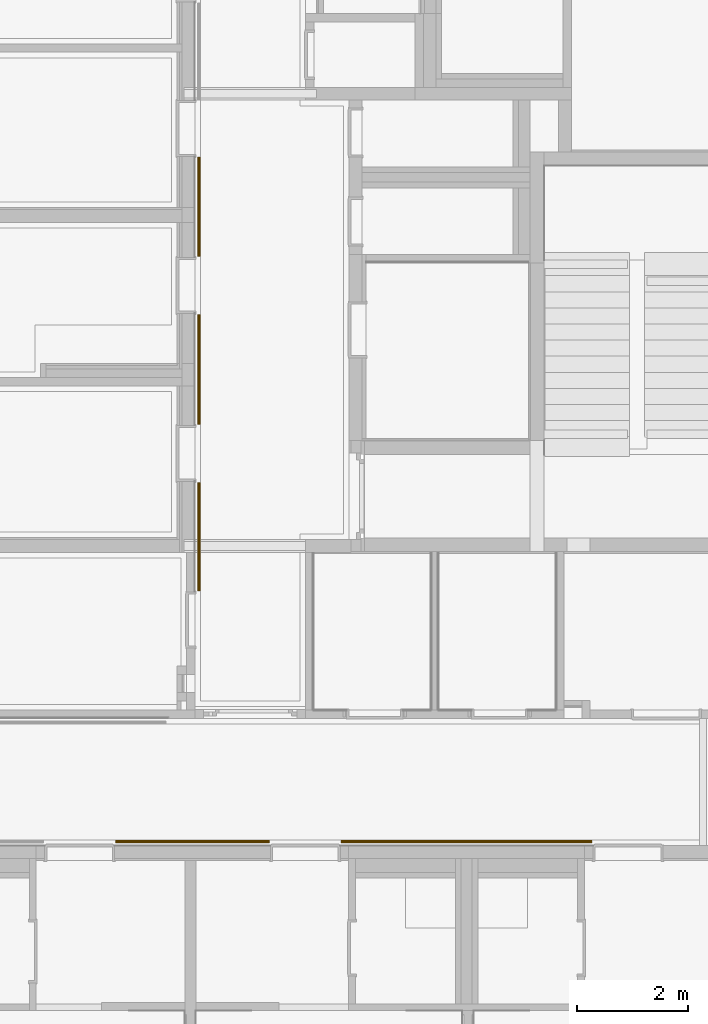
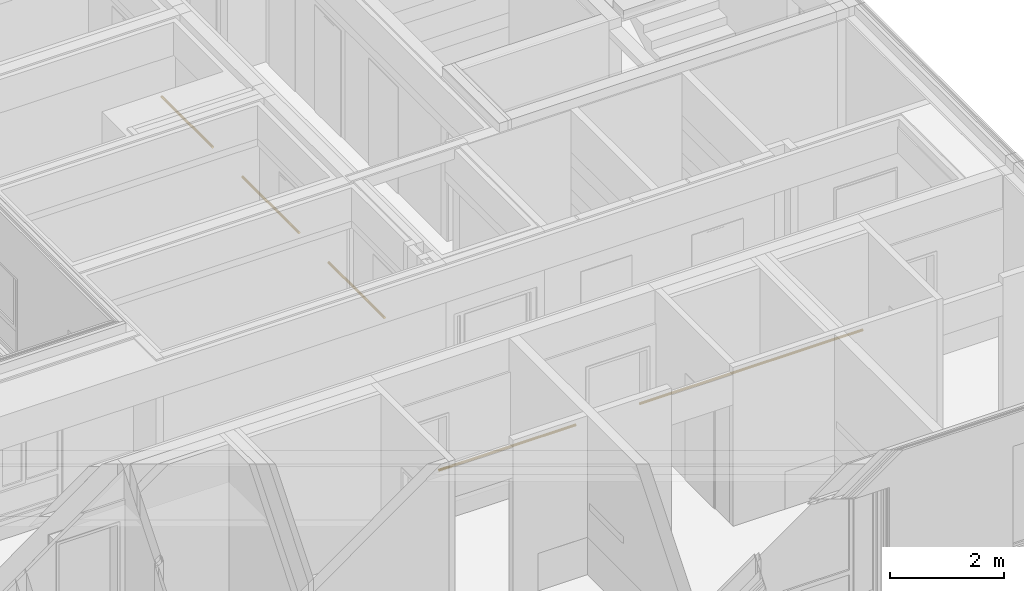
# One storey, part 202 of 207: 5 railings, 5 elements without a shape of their own.
"""IFC4 building model written with IfcOpenShell, lengths in metres."""

from ifc_helpers import new_model, entity, si_unit, converted_unit, derived_unit, frame, origin, place, context, subcontext, project, spatial, faceted_brep, material, element, aggregate, save


model = new_model("IFC4")

# Units and contexts
model_context = context("Model", 3, precision=1e-05, world=origin())
body_context = subcontext(model_context, "Body", "Model", "MODEL_VIEW")
ifc_project = project(units=[si_unit("LENGTHUNIT", "METRE"), si_unit("AREAUNIT", "SQUARE_METRE"), si_unit("VOLUMEUNIT", "CUBIC_METRE"), si_unit("MASSUNIT", "GRAM", prefix="KILO"), converted_unit("PLANEANGLEUNIT", "DEGREE", entity("IfcPlaneAngleMeasure", 0.0174532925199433), si_unit("PLANEANGLEUNIT", "RADIAN"), dimensions=[0, 0, 0, 0, 0, 0, 0]), derived_unit("THERMALTRANSMITTANCEUNIT", [(si_unit("POWERUNIT", "WATT"), 1), (si_unit("THERMODYNAMICTEMPERATUREUNIT", "KELVIN"), -1), (si_unit("LENGTHUNIT", "METRE"), -2)]), derived_unit("VOLUMETRICFLOWRATEUNIT", [(si_unit("LENGTHUNIT", "METRE"), 3), (converted_unit("TIMEUNIT", "hour", entity("IfcTimeMeasure", 3600.0), si_unit("TIMEUNIT", "SECOND"), dimensions=[0, 0, 1, 0, 0, 0, 0]), -1), (si_unit("LENGTHUNIT", "METRE"), -1)])], contexts=[model_context])

# Site, building, storey
site_placement = place(None, origin())
site = spatial("IfcSite", under=ifc_project, at=site_placement, Name="Psychiatrie Neubau Wunstorf", CompositionType="ELEMENT")
building_placement = place(site_placement, origin())
building = spatial("IfcBuilding", under=site, at=building_placement, Name="Neubau H2 Stationsgebäude", CompositionType="ELEMENT")
storey_placement = place(building_placement, frame((0.0, 0.0, -0.2)))
storey = spatial("IfcBuildingStorey", under=building, at=storey_placement, Name="H2 Ebene 0", CompositionType="ELEMENT", Elevation=-0.2)

# Assembly, railing
assembly_1_placement = place(storey_placement, frame((0.0, 0.0, 0.2)))
assembly_1 = element("IfcElementAssembly", 1, at=assembly_1_placement, inside=storey, Name="Geländer+Abstand", PredefinedType="NOTDEFINED")
ifc_material_1 = material(Name="Holz")
railing_1_placement = place(assembly_1_placement, frame((94.6500000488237, 5.3825, 0.8)))
railing_1 = element("IfcRailing", 2, at=railing_1_placement, material=ifc_material_1, context=body_context, shape_type="Brep", body=[
    faceted_brep([(2.77499995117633, 0.000103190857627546, 0.025), (2.77499995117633, 0.000481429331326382, 0.0293232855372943), (2.77499995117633, 0.00160465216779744, 0.0335152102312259), (2.77499995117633, 0.00343873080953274, 0.0374484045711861), (2.77499995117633, 0.00592793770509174, 0.0410033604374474), (2.77499995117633, 0.00899663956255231, 0.0440720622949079), (2.77499995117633, 0.0125515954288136, 0.0465612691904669), (2.77499995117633, 0.0164847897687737, 0.0483953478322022), (2.77499995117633, 0.0206767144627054, 0.0495185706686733), (2.77499995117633, 0.0249999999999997, 0.0498968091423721), (2.77499995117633, 0.029323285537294, 0.0495185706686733), (2.77499995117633, 0.0335152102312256, 0.0483953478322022), (2.77499995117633, 0.0374484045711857, 0.0465612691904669), (2.77499995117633, 0.041003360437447, 0.0440720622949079), (2.77499995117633, 0.0440720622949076, 0.0410033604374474), (2.77499995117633, 0.0465612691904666, 0.0374484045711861), (2.77499995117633, 0.0483953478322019, 0.0335152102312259), (2.77499995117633, 0.049518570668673, 0.0293232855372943), (2.77499995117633, 0.0498968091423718, 0.025), (2.77499995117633, 0.049518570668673, 0.0206767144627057), (2.77499995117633, 0.0483953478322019, 0.0164847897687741), (2.77499995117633, 0.0465612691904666, 0.0125515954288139), (2.77499995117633, 0.0440720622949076, 0.00899663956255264), (2.77499995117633, 0.041003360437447, 0.00592793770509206), (2.77499995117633, 0.0374484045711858, 0.00343873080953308), (2.77499995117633, 0.0335152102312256, 0.00160465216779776), (2.77499995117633, 0.029323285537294, 0.000481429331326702), (2.77499995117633, 0.0249999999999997, 0.000103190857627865), (2.77499995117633, 0.0206767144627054, 0.000481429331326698), (2.77499995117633, 0.0164847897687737, 0.00160465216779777), (2.77499995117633, 0.0125515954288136, 0.00343873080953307), (2.77499995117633, 0.00899663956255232, 0.00592793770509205), (2.77499995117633, 0.00592793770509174, 0.00899663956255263), (2.77499995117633, 0.00343873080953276, 0.0125515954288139), (2.77499995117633, 0.00160465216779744, 0.0164847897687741), (2.77499995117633, 0.000481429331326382, 0.0206767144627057), (0.0, 0.000103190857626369, 0.025), (0.0, 0.000481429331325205, 0.0206767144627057), (0.0, 0.00160465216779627, 0.0164847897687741), (0.0, 0.00343873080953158, 0.0125515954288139), (0.0, 0.00592793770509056, 0.00899663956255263), (0.0, 0.00899663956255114, 0.00592793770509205), (0.0, 0.0125515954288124, 0.00343873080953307), (0.0, 0.0164847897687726, 0.00160465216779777), (0.0, 0.0206767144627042, 0.000481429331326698), (0.0, 0.0249999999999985, 0.000103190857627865), (0.0, 0.0293232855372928, 0.000481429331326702), (0.0, 0.0335152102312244, 0.00160465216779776), (0.0, 0.0374484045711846, 0.00343873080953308), (0.0, 0.0410033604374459, 0.00592793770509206), (0.0, 0.0440720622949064, 0.00899663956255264), (0.0, 0.0465612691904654, 0.0125515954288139), (0.0, 0.0483953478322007, 0.0164847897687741), (0.0, 0.0495185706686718, 0.0206767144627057), (0.0, 0.0498968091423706, 0.025), (0.0, 0.0495185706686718, 0.0293232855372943), (0.0, 0.0483953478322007, 0.0335152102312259), (0.0, 0.0465612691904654, 0.0374484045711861), (0.0, 0.0440720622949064, 0.0410033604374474), (0.0, 0.0410033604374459, 0.0440720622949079), (0.0, 0.0374484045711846, 0.0465612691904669), (0.0, 0.0335152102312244, 0.0483953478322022), (0.0, 0.0293232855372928, 0.0495185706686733), (0.0, 0.0249999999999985, 0.0498968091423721), (0.0, 0.0206767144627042, 0.0495185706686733), (0.0, 0.0164847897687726, 0.0483953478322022), (0.0, 0.0125515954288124, 0.0465612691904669), (0.0, 0.00899663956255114, 0.0440720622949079), (0.0, 0.00592793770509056, 0.0410033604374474), (0.0, 0.00343873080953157, 0.0374484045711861), (0.0, 0.00160465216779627, 0.0335152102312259), (0.0, 0.000481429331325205, 0.0293232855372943)], [[[0, 1, 2, 3, 4, 5, 6, 7, 8, 9, 10, 11, 12, 13, 14, 15, 16, 17, 18, 19, 20, 21, 22, 23, 24, 25, 26, 27, 28, 29, 30, 31, 32, 33, 34, 35]], [[36, 37, 38, 39, 40, 41, 42, 43, 44, 45, 46, 47, 48, 49, 50, 51, 52, 53, 54, 55, 56, 57, 58, 59, 60, 61, 62, 63, 64, 65, 66, 67, 68, 69, 70, 71]], [[1, 0, 36, 71]], [[2, 1, 71, 70]], [[3, 2, 70, 69]], [[4, 3, 69, 68]], [[5, 4, 68, 67]], [[6, 5, 67, 66]], [[7, 6, 66, 65]], [[8, 7, 65, 64]], [[9, 8, 64, 63]], [[10, 9, 63, 62]], [[11, 10, 62, 61]], [[12, 11, 61, 60]], [[13, 12, 60, 59]], [[14, 13, 59, 58]], [[15, 14, 58, 57]], [[16, 15, 57, 56]], [[17, 16, 56, 55]], [[18, 17, 55, 54]], [[19, 18, 54, 53]], [[20, 19, 53, 52]], [[21, 20, 52, 51]], [[22, 21, 51, 50]], [[23, 22, 50, 49]], [[24, 23, 49, 48]], [[25, 24, 48, 47]], [[26, 25, 47, 46]], [[27, 26, 46, 45]], [[28, 27, 45, 44]], [[29, 28, 44, 43]], [[30, 29, 43, 42]], [[31, 30, 42, 41]], [[32, 31, 41, 40]], [[33, 32, 40, 39]], [[34, 33, 39, 38]], [[35, 34, 38, 37]], [[0, 35, 37, 36]]], orient=[[False], [False], [False], [False], [False], [False], [False], [False], [False], [False], [False], [False], [False], [False], [False], [False], [False], [False], [False], [False], [False], [False], [False], [False], [False], [False], [False], [False], [False], [False], [False], [False], [False], [False], [False], [False], [False], [False]]),
])
aggregate(assembly_1, [railing_1])

assembly_2_placement = place(storey_placement, frame((0.0, 0.0, 0.2)))
assembly_2 = element("IfcElementAssembly", 3, at=assembly_2_placement, inside=storey, Name="Geländer+Abstand", PredefinedType="NOTDEFINED")
ifc_material_2 = material(Name="Holz")
railing_2_placement = place(assembly_2_placement, frame((96.1324999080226, 12.915, 0.8)))
railing_2 = element("IfcRailing", 4, at=railing_2_placement, material=ifc_material_2, context=body_context, shape_type="Brep", body=[
    faceted_brep([(0.025, 0.0, 0.0498968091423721), (0.0293232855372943, 0.0, 0.0495185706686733), (0.0335152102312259, 0.0, 0.0483953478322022), (0.0374484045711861, 0.0, 0.0465612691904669), (0.0410033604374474, 0.0, 0.0440720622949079), (0.0440720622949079, 0.0, 0.0410033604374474), (0.0465612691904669, 0.0, 0.0374484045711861), (0.0483953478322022, 0.0, 0.0335152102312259), (0.0495185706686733, 0.0, 0.0293232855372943), (0.0498968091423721, 0.0, 0.025), (0.0495185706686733, 0.0, 0.0206767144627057), (0.0483953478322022, 0.0, 0.0164847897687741), (0.0465612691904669, 0.0, 0.0125515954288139), (0.0440720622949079, 0.0, 0.00899663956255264), (0.0410033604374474, 0.0, 0.00592793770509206), (0.0374484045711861, 0.0, 0.00343873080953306), (0.0335152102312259, 0.0, 0.00160465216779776), (0.0293232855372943, 0.0, 0.000481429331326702), (0.025, 0.0, 0.000103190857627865), (0.0206767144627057, 0.0, 0.000481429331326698), (0.0164847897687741, 0.0, 0.00160465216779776), (0.0125515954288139, 0.0, 0.00343873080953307), (0.00899663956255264, 0.0, 0.00592793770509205), (0.00592793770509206, 0.0, 0.00899663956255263), (0.00343873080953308, 0.0, 0.0125515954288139), (0.00160465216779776, 0.0, 0.0164847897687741), (0.000481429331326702, 0.0, 0.0206767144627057), (0.000103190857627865, 0.0, 0.025), (0.000481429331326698, 0.0, 0.0293232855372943), (0.00160465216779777, 0.0, 0.0335152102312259), (0.00343873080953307, 0.0, 0.0374484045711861), (0.00592793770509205, 0.0, 0.0410033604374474), (0.00899663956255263, 0.0, 0.0440720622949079), (0.0125515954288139, 0.0, 0.0465612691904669), (0.0164847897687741, 0.0, 0.0483953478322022), (0.0206767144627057, 0.0, 0.0495185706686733), (0.025, 1.98499999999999, 0.0498968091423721), (0.0206767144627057, 1.98499999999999, 0.0495185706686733), (0.0164847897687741, 1.98499999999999, 0.0483953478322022), (0.0125515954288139, 1.98499999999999, 0.0465612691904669), (0.00899663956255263, 1.98499999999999, 0.0440720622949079), (0.00592793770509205, 1.98499999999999, 0.0410033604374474), (0.00343873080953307, 1.98499999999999, 0.0374484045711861), (0.00160465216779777, 1.98499999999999, 0.0335152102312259), (0.000481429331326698, 1.98499999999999, 0.0293232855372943), (0.000103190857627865, 1.98499999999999, 0.025), (0.000481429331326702, 1.98499999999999, 0.0206767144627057), (0.00160465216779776, 1.98499999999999, 0.0164847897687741), (0.00343873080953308, 1.98499999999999, 0.0125515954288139), (0.00592793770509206, 1.98499999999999, 0.00899663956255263), (0.00899663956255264, 1.98499999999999, 0.00592793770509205), (0.0125515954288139, 1.98499999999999, 0.00343873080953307), (0.0164847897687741, 1.98499999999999, 0.00160465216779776), (0.0206767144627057, 1.98499999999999, 0.000481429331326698), (0.025, 1.98499999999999, 0.000103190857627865), (0.0293232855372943, 1.98499999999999, 0.000481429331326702), (0.0335152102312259, 1.98499999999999, 0.00160465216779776), (0.0374484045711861, 1.98499999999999, 0.00343873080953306), (0.0410033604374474, 1.98499999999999, 0.00592793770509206), (0.0440720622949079, 1.98499999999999, 0.00899663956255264), (0.0465612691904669, 1.98499999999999, 0.0125515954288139), (0.0483953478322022, 1.98499999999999, 0.0164847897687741), (0.0495185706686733, 1.98499999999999, 0.0206767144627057), (0.0498968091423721, 1.98499999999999, 0.025), (0.0495185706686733, 1.98499999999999, 0.0293232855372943), (0.0483953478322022, 1.98499999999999, 0.0335152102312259), (0.0465612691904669, 1.98499999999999, 0.0374484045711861), (0.0440720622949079, 1.98499999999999, 0.0410033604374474), (0.0410033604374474, 1.98499999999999, 0.0440720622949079), (0.0374484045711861, 1.98499999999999, 0.0465612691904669), (0.0335152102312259, 1.98499999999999, 0.0483953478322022), (0.0293232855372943, 1.98499999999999, 0.0495185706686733)], [[[0, 1, 2, 3, 4, 5, 6, 7, 8, 9, 10, 11, 12, 13, 14, 15, 16, 17, 18, 19, 20, 21, 22, 23, 24, 25, 26, 27, 28, 29, 30, 31, 32, 33, 34, 35]], [[36, 37, 38, 39, 40, 41, 42, 43, 44, 45, 46, 47, 48, 49, 50, 51, 52, 53, 54, 55, 56, 57, 58, 59, 60, 61, 62, 63, 64, 65, 66, 67, 68, 69, 70, 71]], [[1, 0, 36, 71]], [[2, 1, 71, 70]], [[3, 2, 70, 69]], [[4, 3, 69, 68]], [[5, 4, 68, 67]], [[6, 5, 67, 66]], [[7, 6, 66, 65]], [[8, 7, 65, 64]], [[9, 8, 64, 63]], [[10, 9, 63, 62]], [[11, 10, 62, 61]], [[12, 11, 61, 60]], [[13, 12, 60, 59]], [[14, 13, 59, 58]], [[15, 14, 58, 57]], [[16, 15, 57, 56]], [[17, 16, 56, 55]], [[18, 17, 55, 54]], [[19, 18, 54, 53]], [[20, 19, 53, 52]], [[21, 20, 52, 51]], [[22, 21, 51, 50]], [[23, 22, 50, 49]], [[24, 23, 49, 48]], [[25, 24, 48, 47]], [[26, 25, 47, 46]], [[27, 26, 46, 45]], [[28, 27, 45, 44]], [[29, 28, 44, 43]], [[30, 29, 43, 42]], [[31, 30, 42, 41]], [[32, 31, 41, 40]], [[33, 32, 40, 39]], [[34, 33, 39, 38]], [[35, 34, 38, 37]], [[0, 35, 37, 36]]], orient=[[False], [False], [False], [False], [False], [False], [False], [False], [False], [False], [False], [False], [False], [False], [False], [False], [False], [False], [False], [False], [False], [False], [False], [False], [False], [False], [False], [False], [False], [False], [False], [False], [False], [False], [False], [False], [False], [False]]),
])
aggregate(assembly_2, [railing_2])

assembly_3_placement = place(storey_placement, frame((0.0, 0.0, 0.2)))
assembly_3 = element("IfcElementAssembly", 5, at=assembly_3_placement, inside=storey, Name="Geländer+Abstand", PredefinedType="NOTDEFINED")
ifc_material_3 = material(Name="Holz")
railing_3_placement = place(assembly_3_placement, frame((96.1324999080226, 15.94, 0.8)))
railing_3 = element("IfcRailing", 6, at=railing_3_placement, material=ifc_material_3, context=body_context, shape_type="Brep", body=[
    faceted_brep([(0.025, 0.0, 0.0498968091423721), (0.0293232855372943, 0.0, 0.0495185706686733), (0.0335152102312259, 0.0, 0.0483953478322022), (0.0374484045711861, 0.0, 0.0465612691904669), (0.0410033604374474, 0.0, 0.0440720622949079), (0.0440720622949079, 0.0, 0.0410033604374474), (0.0465612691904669, 0.0, 0.0374484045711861), (0.0483953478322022, 0.0, 0.0335152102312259), (0.0495185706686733, 0.0, 0.0293232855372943), (0.0498968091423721, 0.0, 0.025), (0.0495185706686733, 0.0, 0.0206767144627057), (0.0483953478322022, 0.0, 0.0164847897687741), (0.0465612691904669, 0.0, 0.0125515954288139), (0.0440720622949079, 0.0, 0.00899663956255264), (0.0410033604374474, 0.0, 0.00592793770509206), (0.0374484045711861, 0.0, 0.00343873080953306), (0.0335152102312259, 0.0, 0.00160465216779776), (0.0293232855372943, 0.0, 0.000481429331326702), (0.025, 0.0, 0.000103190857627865), (0.0206767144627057, 0.0, 0.000481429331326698), (0.0164847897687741, 0.0, 0.00160465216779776), (0.0125515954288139, 0.0, 0.00343873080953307), (0.00899663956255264, 0.0, 0.00592793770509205), (0.00592793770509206, 0.0, 0.00899663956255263), (0.00343873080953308, 0.0, 0.0125515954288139), (0.00160465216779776, 0.0, 0.0164847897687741), (0.000481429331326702, 0.0, 0.0206767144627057), (0.000103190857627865, 0.0, 0.025), (0.000481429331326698, 0.0, 0.0293232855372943), (0.00160465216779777, 0.0, 0.0335152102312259), (0.00343873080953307, 0.0, 0.0374484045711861), (0.00592793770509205, 0.0, 0.0410033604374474), (0.00899663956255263, 0.0, 0.0440720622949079), (0.0125515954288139, 0.0, 0.0465612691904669), (0.0164847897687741, 0.0, 0.0483953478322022), (0.0206767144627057, 0.0, 0.0495185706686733), (0.025, 1.789, 0.0498968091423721), (0.0206767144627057, 1.789, 0.0495185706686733), (0.0164847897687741, 1.789, 0.0483953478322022), (0.0125515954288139, 1.789, 0.0465612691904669), (0.00899663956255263, 1.789, 0.0440720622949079), (0.00592793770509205, 1.789, 0.0410033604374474), (0.00343873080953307, 1.789, 0.0374484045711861), (0.00160465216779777, 1.789, 0.0335152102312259), (0.000481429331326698, 1.789, 0.0293232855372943), (0.000103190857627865, 1.789, 0.025), (0.000481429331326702, 1.789, 0.0206767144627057), (0.00160465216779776, 1.789, 0.0164847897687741), (0.00343873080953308, 1.789, 0.0125515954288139), (0.00592793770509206, 1.789, 0.00899663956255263), (0.00899663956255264, 1.789, 0.00592793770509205), (0.0125515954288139, 1.789, 0.00343873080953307), (0.0164847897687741, 1.789, 0.00160465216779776), (0.0206767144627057, 1.789, 0.000481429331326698), (0.025, 1.789, 0.000103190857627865), (0.0293232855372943, 1.789, 0.000481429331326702), (0.0335152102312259, 1.789, 0.00160465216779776), (0.0374484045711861, 1.789, 0.00343873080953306), (0.0410033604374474, 1.789, 0.00592793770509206), (0.0440720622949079, 1.789, 0.00899663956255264), (0.0465612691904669, 1.789, 0.0125515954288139), (0.0483953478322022, 1.789, 0.0164847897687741), (0.0495185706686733, 1.789, 0.0206767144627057), (0.0498968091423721, 1.789, 0.025), (0.0495185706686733, 1.789, 0.0293232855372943), (0.0483953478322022, 1.789, 0.0335152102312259), (0.0465612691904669, 1.789, 0.0374484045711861), (0.0440720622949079, 1.789, 0.0410033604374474), (0.0410033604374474, 1.789, 0.0440720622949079), (0.0374484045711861, 1.789, 0.0465612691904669), (0.0335152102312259, 1.789, 0.0483953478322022), (0.0293232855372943, 1.789, 0.0495185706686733)], [[[0, 1, 2, 3, 4, 5, 6, 7, 8, 9, 10, 11, 12, 13, 14, 15, 16, 17, 18, 19, 20, 21, 22, 23, 24, 25, 26, 27, 28, 29, 30, 31, 32, 33, 34, 35]], [[36, 37, 38, 39, 40, 41, 42, 43, 44, 45, 46, 47, 48, 49, 50, 51, 52, 53, 54, 55, 56, 57, 58, 59, 60, 61, 62, 63, 64, 65, 66, 67, 68, 69, 70, 71]], [[1, 0, 36, 71]], [[2, 1, 71, 70]], [[3, 2, 70, 69]], [[4, 3, 69, 68]], [[5, 4, 68, 67]], [[6, 5, 67, 66]], [[7, 6, 66, 65]], [[8, 7, 65, 64]], [[9, 8, 64, 63]], [[10, 9, 63, 62]], [[11, 10, 62, 61]], [[12, 11, 61, 60]], [[13, 12, 60, 59]], [[14, 13, 59, 58]], [[15, 14, 58, 57]], [[16, 15, 57, 56]], [[17, 16, 56, 55]], [[18, 17, 55, 54]], [[19, 18, 54, 53]], [[20, 19, 53, 52]], [[21, 20, 52, 51]], [[22, 21, 51, 50]], [[23, 22, 50, 49]], [[24, 23, 49, 48]], [[25, 24, 48, 47]], [[26, 25, 47, 46]], [[27, 26, 46, 45]], [[28, 27, 45, 44]], [[29, 28, 44, 43]], [[30, 29, 43, 42]], [[31, 30, 42, 41]], [[32, 31, 41, 40]], [[33, 32, 40, 39]], [[34, 33, 39, 38]], [[35, 34, 38, 37]], [[0, 35, 37, 36]]], orient=[[False], [False], [False], [False], [False], [False], [False], [False], [False], [False], [False], [False], [False], [False], [False], [False], [False], [False], [False], [False], [False], [False], [False], [False], [False], [False], [False], [False], [False], [False], [False], [False], [False], [False], [False], [False], [False], [False]]),
])
aggregate(assembly_3, [railing_3])

assembly_4_placement = place(storey_placement, frame((0.0, 0.0, 0.2)))
assembly_4 = element("IfcElementAssembly", 7, at=assembly_4_placement, inside=storey, Name="Geländer+Abstand", PredefinedType="NOTDEFINED")
ifc_material_4 = material(Name="Holz")
railing_4_placement = place(assembly_4_placement, frame((96.1324999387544, 9.915, 0.8)))
railing_4 = element("IfcRailing", 8, at=railing_4_placement, material=ifc_material_4, context=body_context, shape_type="Brep", body=[
    faceted_brep([(0.0250000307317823, 0.0, 0.0498968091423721), (0.0293233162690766, 0.0, 0.0495185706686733), (0.0335152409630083, 0.0, 0.0483953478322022), (0.0374484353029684, 0.0, 0.0465612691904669), (0.0410033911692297, 0.0, 0.0440720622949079), (0.0440720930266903, 0.0, 0.0410033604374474), (0.0465612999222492, 0.0, 0.0374484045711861), (0.0483953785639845, 0.0, 0.0335152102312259), (0.0495186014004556, 0.0, 0.0293232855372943), (0.0498968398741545, 0.0, 0.025), (0.0495186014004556, 0.0, 0.0206767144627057), (0.0483953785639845, 0.0, 0.0164847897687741), (0.0465612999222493, 0.0, 0.0125515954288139), (0.0440720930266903, 0.0, 0.00899663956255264), (0.0410033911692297, 0.0, 0.00592793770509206), (0.0374484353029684, 0.0, 0.00343873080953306), (0.0335152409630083, 0.0, 0.00160465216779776), (0.0293233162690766, 0.0, 0.000481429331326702), (0.0250000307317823, 0.0, 0.000103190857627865), (0.020676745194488, 0.0, 0.000481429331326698), (0.0164848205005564, 0.0, 0.00160465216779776), (0.0125516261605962, 0.0, 0.00343873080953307), (0.00899667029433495, 0.0, 0.00592793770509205), (0.00592796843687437, 0.0, 0.00899663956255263), (0.00343876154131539, 0.0, 0.0125515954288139), (0.00160468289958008, 0.0, 0.0164847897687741), (0.000481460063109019, 0.0, 0.0206767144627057), (0.000103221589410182, 0.0, 0.025), (0.000481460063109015, 0.0, 0.0293232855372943), (0.00160468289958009, 0.0, 0.0335152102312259), (0.00343876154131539, 0.0, 0.0374484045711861), (0.00592796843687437, 0.0, 0.0410033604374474), (0.00899667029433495, 0.0, 0.0440720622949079), (0.0125516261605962, 0.0, 0.0465612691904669), (0.0164848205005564, 0.0, 0.0483953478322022), (0.020676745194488, 0.0, 0.0495185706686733), (0.0250000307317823, 1.96, 0.0498968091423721), (0.020676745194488, 1.96, 0.0495185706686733), (0.0164848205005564, 1.96, 0.0483953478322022), (0.0125516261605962, 1.96, 0.0465612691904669), (0.00899667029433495, 1.96, 0.0440720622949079), (0.00592796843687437, 1.96, 0.0410033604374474), (0.00343876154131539, 1.96, 0.0374484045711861), (0.00160468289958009, 1.96, 0.0335152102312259), (0.000481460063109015, 1.96, 0.0293232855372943), (0.000103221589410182, 1.96, 0.025), (0.000481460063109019, 1.96, 0.0206767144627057), (0.00160468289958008, 1.96, 0.0164847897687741), (0.00343876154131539, 1.96, 0.0125515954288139), (0.00592796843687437, 1.96, 0.00899663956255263), (0.00899667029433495, 1.96, 0.00592793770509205), (0.0125516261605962, 1.96, 0.00343873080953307), (0.0164848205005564, 1.96, 0.00160465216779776), (0.020676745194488, 1.96, 0.000481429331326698), (0.0250000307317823, 1.96, 0.000103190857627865), (0.0293233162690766, 1.96, 0.000481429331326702), (0.0335152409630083, 1.96, 0.00160465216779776), (0.0374484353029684, 1.96, 0.00343873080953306), (0.0410033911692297, 1.96, 0.00592793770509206), (0.0440720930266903, 1.96, 0.00899663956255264), (0.0465612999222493, 1.96, 0.0125515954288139), (0.0483953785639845, 1.96, 0.0164847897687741), (0.0495186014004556, 1.96, 0.0206767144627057), (0.0498968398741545, 1.96, 0.025), (0.0495186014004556, 1.96, 0.0293232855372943), (0.0483953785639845, 1.96, 0.0335152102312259), (0.0465612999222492, 1.96, 0.0374484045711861), (0.0440720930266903, 1.96, 0.0410033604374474), (0.0410033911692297, 1.96, 0.0440720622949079), (0.0374484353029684, 1.96, 0.0465612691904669), (0.0335152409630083, 1.96, 0.0483953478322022), (0.0293233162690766, 1.96, 0.0495185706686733)], [[[0, 1, 2, 3, 4, 5, 6, 7, 8, 9, 10, 11, 12, 13, 14, 15, 16, 17, 18, 19, 20, 21, 22, 23, 24, 25, 26, 27, 28, 29, 30, 31, 32, 33, 34, 35]], [[36, 37, 38, 39, 40, 41, 42, 43, 44, 45, 46, 47, 48, 49, 50, 51, 52, 53, 54, 55, 56, 57, 58, 59, 60, 61, 62, 63, 64, 65, 66, 67, 68, 69, 70, 71]], [[1, 0, 36, 71]], [[2, 1, 71, 70]], [[3, 2, 70, 69]], [[4, 3, 69, 68]], [[5, 4, 68, 67]], [[6, 5, 67, 66]], [[7, 6, 66, 65]], [[8, 7, 65, 64]], [[9, 8, 64, 63]], [[10, 9, 63, 62]], [[11, 10, 62, 61]], [[12, 11, 61, 60]], [[13, 12, 60, 59]], [[14, 13, 59, 58]], [[15, 14, 58, 57]], [[16, 15, 57, 56]], [[17, 16, 56, 55]], [[18, 17, 55, 54]], [[19, 18, 54, 53]], [[20, 19, 53, 52]], [[21, 20, 52, 51]], [[22, 21, 51, 50]], [[23, 22, 50, 49]], [[24, 23, 49, 48]], [[25, 24, 48, 47]], [[26, 25, 47, 46]], [[27, 26, 46, 45]], [[28, 27, 45, 44]], [[29, 28, 44, 43]], [[30, 29, 43, 42]], [[31, 30, 42, 41]], [[32, 31, 41, 40]], [[33, 32, 40, 39]], [[34, 33, 39, 38]], [[35, 34, 38, 37]], [[0, 35, 37, 36]]], orient=[[False], [False], [False], [False], [False], [False], [False], [False], [False], [False], [False], [False], [False], [False], [False], [False], [False], [False], [False], [False], [False], [False], [False], [False], [False], [False], [False], [False], [False], [False], [False], [False], [False], [False], [False], [False], [False], [False]]),
])
aggregate(assembly_4, [railing_4])

assembly_5_placement = place(storey_placement, frame((0.0, 0.0, 0.2)))
assembly_5 = element("IfcElementAssembly", 9, at=assembly_5_placement, inside=storey, Name="Geländer+Abstand", PredefinedType="NOTDEFINED")
ifc_material_5 = material(Name="Holz")
railing_5_placement = place(assembly_5_placement, frame((98.715, 5.3825, 0.8)))
railing_5 = element("IfcRailing", 10, at=railing_5_placement, material=ifc_material_5, context=body_context, shape_type="Brep", body=[
    faceted_brep([(4.51999999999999, 0.000103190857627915, 0.025), (4.51999999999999, 0.000481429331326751, 0.0293232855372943), (4.51999999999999, 0.00160465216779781, 0.0335152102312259), (4.51999999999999, 0.00343873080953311, 0.0374484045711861), (4.51999999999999, 0.00592793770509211, 0.0410033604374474), (4.51999999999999, 0.00899663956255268, 0.0440720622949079), (4.51999999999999, 0.012551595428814, 0.0465612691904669), (4.51999999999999, 0.0164847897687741, 0.0483953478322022), (4.51999999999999, 0.0206767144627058, 0.0495185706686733), (4.51999999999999, 0.025, 0.0498968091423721), (4.51999999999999, 0.0293232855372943, 0.0495185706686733), (4.51999999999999, 0.033515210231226, 0.0483953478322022), (4.51999999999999, 0.0374484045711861, 0.0465612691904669), (4.51999999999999, 0.0410033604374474, 0.0440720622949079), (4.51999999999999, 0.044072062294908, 0.0410033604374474), (4.51999999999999, 0.046561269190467, 0.0374484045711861), (4.51999999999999, 0.0483953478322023, 0.0335152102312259), (4.51999999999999, 0.0495185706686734, 0.0293232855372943), (4.51999999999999, 0.0498968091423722, 0.025), (4.51999999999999, 0.0495185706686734, 0.0206767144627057), (4.51999999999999, 0.0483953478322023, 0.0164847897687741), (4.51999999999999, 0.046561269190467, 0.0125515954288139), (4.51999999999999, 0.044072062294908, 0.00899663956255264), (4.51999999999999, 0.0410033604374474, 0.00592793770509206), (4.51999999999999, 0.0374484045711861, 0.00343873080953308), (4.51999999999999, 0.033515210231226, 0.00160465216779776), (4.51999999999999, 0.0293232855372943, 0.000481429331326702), (4.51999999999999, 0.0250000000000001, 0.000103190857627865), (4.51999999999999, 0.0206767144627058, 0.000481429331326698), (4.51999999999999, 0.0164847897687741, 0.00160465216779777), (4.51999999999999, 0.012551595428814, 0.00343873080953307), (4.51999999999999, 0.00899663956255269, 0.00592793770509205), (4.51999999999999, 0.00592793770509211, 0.00899663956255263), (4.51999999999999, 0.00343873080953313, 0.0125515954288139), (4.51999999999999, 0.00160465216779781, 0.0164847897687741), (4.51999999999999, 0.000481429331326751, 0.0206767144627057), (0.0, 0.000103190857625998, 0.025), (0.0, 0.000481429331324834, 0.0206767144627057), (0.0, 0.0016046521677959, 0.0164847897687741), (0.0, 0.00343873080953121, 0.0125515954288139), (0.0, 0.00592793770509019, 0.00899663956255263), (0.0, 0.00899663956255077, 0.00592793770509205), (0.0, 0.0125515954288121, 0.00343873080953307), (0.0, 0.0164847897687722, 0.00160465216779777), (0.0, 0.0206767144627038, 0.000481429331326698), (0.0, 0.0249999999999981, 0.000103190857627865), (0.0, 0.0293232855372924, 0.000481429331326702), (0.0, 0.0335152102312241, 0.00160465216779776), (0.0, 0.0374484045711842, 0.00343873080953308), (0.0, 0.0410033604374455, 0.00592793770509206), (0.0, 0.0440720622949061, 0.00899663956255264), (0.0, 0.0465612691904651, 0.0125515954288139), (0.0, 0.0483953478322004, 0.0164847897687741), (0.0, 0.0495185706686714, 0.0206767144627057), (0.0, 0.0498968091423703, 0.025), (0.0, 0.0495185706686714, 0.0293232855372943), (0.0, 0.0483953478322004, 0.0335152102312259), (0.0, 0.0465612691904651, 0.0374484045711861), (0.0, 0.0440720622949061, 0.0410033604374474), (0.0, 0.0410033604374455, 0.0440720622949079), (0.0, 0.0374484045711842, 0.0465612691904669), (0.0, 0.0335152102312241, 0.0483953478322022), (0.0, 0.0293232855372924, 0.0495185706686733), (0.0, 0.0249999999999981, 0.0498968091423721), (0.0, 0.0206767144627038, 0.0495185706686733), (0.0, 0.0164847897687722, 0.0483953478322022), (0.0, 0.0125515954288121, 0.0465612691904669), (0.0, 0.00899663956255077, 0.0440720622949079), (0.0, 0.00592793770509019, 0.0410033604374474), (0.0, 0.0034387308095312, 0.0374484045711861), (0.0, 0.0016046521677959, 0.0335152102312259), (0.0, 0.000481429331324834, 0.0293232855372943)], [[[0, 1, 2, 3, 4, 5, 6, 7, 8, 9, 10, 11, 12, 13, 14, 15, 16, 17, 18, 19, 20, 21, 22, 23, 24, 25, 26, 27, 28, 29, 30, 31, 32, 33, 34, 35]], [[36, 37, 38, 39, 40, 41, 42, 43, 44, 45, 46, 47, 48, 49, 50, 51, 52, 53, 54, 55, 56, 57, 58, 59, 60, 61, 62, 63, 64, 65, 66, 67, 68, 69, 70, 71]], [[1, 0, 36, 71]], [[2, 1, 71, 70]], [[3, 2, 70, 69]], [[4, 3, 69, 68]], [[5, 4, 68, 67]], [[6, 5, 67, 66]], [[7, 6, 66, 65]], [[8, 7, 65, 64]], [[9, 8, 64, 63]], [[10, 9, 63, 62]], [[11, 10, 62, 61]], [[12, 11, 61, 60]], [[13, 12, 60, 59]], [[14, 13, 59, 58]], [[15, 14, 58, 57]], [[16, 15, 57, 56]], [[17, 16, 56, 55]], [[18, 17, 55, 54]], [[19, 18, 54, 53]], [[20, 19, 53, 52]], [[21, 20, 52, 51]], [[22, 21, 51, 50]], [[23, 22, 50, 49]], [[24, 23, 49, 48]], [[25, 24, 48, 47]], [[26, 25, 47, 46]], [[27, 26, 46, 45]], [[28, 27, 45, 44]], [[29, 28, 44, 43]], [[30, 29, 43, 42]], [[31, 30, 42, 41]], [[32, 31, 41, 40]], [[33, 32, 40, 39]], [[34, 33, 39, 38]], [[35, 34, 38, 37]], [[0, 35, 37, 36]]], orient=[[False], [False], [False], [False], [False], [False], [False], [False], [False], [False], [False], [False], [False], [False], [False], [False], [False], [False], [False], [False], [False], [False], [False], [False], [False], [False], [False], [False], [False], [False], [False], [False], [False], [False], [False], [False], [False], [False]]),
])
aggregate(assembly_5, [railing_5])

save(model, "model.ifc")
